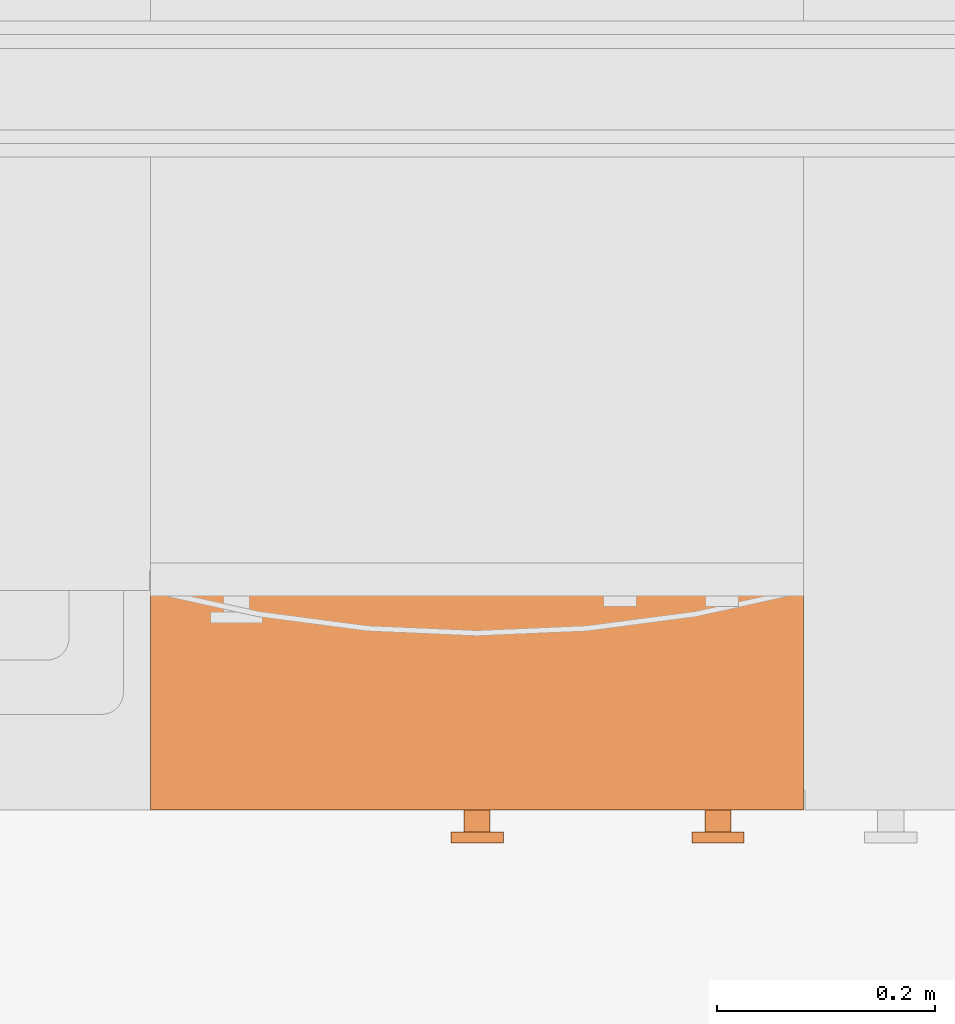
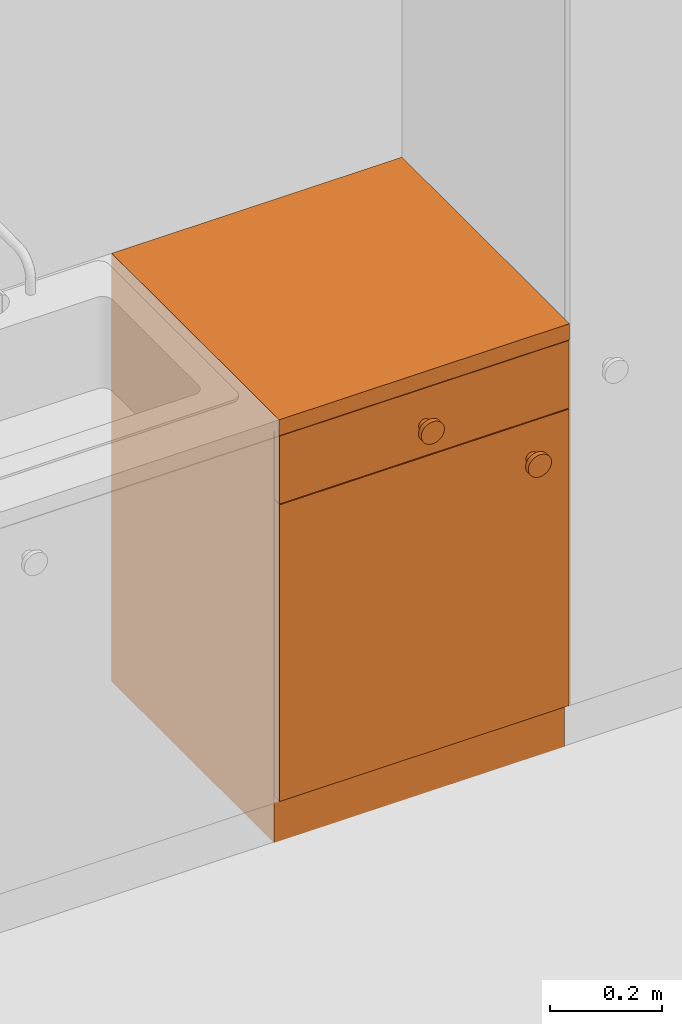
# One storey, part 148 of 165: 1 proxy.
"""IFC2X3 building model written with IfcOpenShell, lengths in millimetres."""

from ifc_helpers import new_model, entity, si_unit, converted_unit, derived_unit, money_unit, direction, frame, origin_with_axes, place, context, subcontext, project, spatial, faceted_brep, type_object, element, save


model = new_model("IFC2X3")

# Units and contexts
model_context = context("Model", 3, precision=0.01, world=origin_with_axes(), true_north=direction((0.0, 1.0)))
body_context = subcontext(model_context, "Body", "Model", "MODEL_VIEW")
ifc_project = project(units=[si_unit("LENGTHUNIT", "METRE", prefix="MILLI"), si_unit("AREAUNIT", "SQUARE_METRE"), si_unit("VOLUMEUNIT", "CUBIC_METRE"), converted_unit("PLANEANGLEUNIT", "DEGREE", entity("IfcPlaneAngleMeasure", 0.0174532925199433), si_unit("PLANEANGLEUNIT", "RADIAN"), dimensions=[0, 0, 0, 0, 0, 0, 0]), money_unit("EUR"), converted_unit("TIMEUNIT", "Year", entity("IfcTimeMeasure", 31556926.0), si_unit("TIMEUNIT", "SECOND"), dimensions=[0, 0, 1, 0, 0, 0, 0]), si_unit("MASSUNIT", "GRAM", prefix="KILO"), si_unit("THERMODYNAMICTEMPERATUREUNIT", "DEGREE_CELSIUS"), si_unit("LUMINOUSINTENSITYUNIT", "LUMEN"), si_unit("ENERGYUNIT", "JOULE", prefix="MEGA"), derived_unit("THERMALCONDUCTANCEUNIT", [(si_unit("POWERUNIT", "WATT"), 1), (si_unit("LENGTHUNIT", "METRE"), -1), (si_unit("THERMODYNAMICTEMPERATUREUNIT", "KELVIN"), -1)]), derived_unit("SPECIFICHEATCAPACITYUNIT", [(si_unit("ENERGYUNIT", "JOULE"), 1), (si_unit("MASSUNIT", "GRAM", prefix="KILO"), -1), (si_unit("THERMODYNAMICTEMPERATUREUNIT", "KELVIN"), -1)]), derived_unit("MASSDENSITYUNIT", [(si_unit("MASSUNIT", "GRAM", prefix="KILO"), 1), (si_unit("VOLUMEUNIT", "CUBIC_METRE"), -1)])], contexts=[model_context])

# Site, building, storey
site_placement = place(None, origin_with_axes())
site = spatial("IfcSite", under=ifc_project, at=site_placement, Name="Site", CompositionType="ELEMENT")
building_placement = place(site_placement, origin_with_axes())
building = spatial("IfcBuilding", under=site, at=building_placement, Name="Naam gebouw", CompositionType="ELEMENT")
storey_placement = place(building_placement, origin_with_axes())
storey = spatial("IfcBuildingStorey", under=building, at=storey_placement, Name="Begane grond", CompositionType="ELEMENT", Elevation=0.0)

# Proxy
building_element_proxy_type = type_object("IfcBuildingElementProxyType", Name="Onderkast recht 26", PredefinedType="NOTDEFINED")
proxy_placement = place(storey_placement, frame((2032.000000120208, 11307.50070589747, 0.0), z_axis=(0.0, 0.0, 1.0), x_axis=(1.0, 0.0, 0.0)))
element("IfcBuildingElementProxy", 1, at=proxy_placement, inside=storey, type_object=building_element_proxy_type, Name="_Leeg", context=body_context, shape_type="Brep", body=[
    faceted_brep([(0.0, -600.0, 900.0), (600.0, -600.0, 900.0), (600.0, -600.0, 935.0), (0.0, -600.0, 935.0), (0.0, 0.0, 900.0), (600.0, 0.0, 900.0), (600.0, 0.0, 935.0), (0.0, 0.0, 935.0)], [[[0, 1, 2, 3]], [[0, 4, 5, 1]], [[1, 5, 6, 2]], [[3, 2, 6, 7]], [[4, 0, 3, 7]], [[5, 4, 7, 6]]]),
    faceted_brep([(18.0, -582.0, 420.5), (582.0, -582.0, 420.5), (582.0, -582.0, 438.5), (18.0, -582.0, 438.5), (18.0, -18.0, 420.5), (582.0, -18.0, 420.5), (582.0, -18.0, 438.5), (18.0, -18.0, 438.5)], [[[0, 1, 2, 3]], [[0, 4, 5, 1]], [[1, 5, 6, 2]], [[3, 2, 6, 7]], [[4, 0, 3, 7]], [[5, 4, 7, 6]]]),
    faceted_brep([(18.0, -582.0, 741.0), (582.0, -582.0, 741.0), (582.0, -582.0, 759.0), (18.0, -582.0, 759.0), (18.0, -18.0, 741.0), (582.0, -18.0, 741.0), (582.0, -18.0, 759.0), (18.0, -18.0, 759.0)], [[[0, 1, 2, 3]], [[0, 4, 5, 1]], [[1, 5, 6, 2]], [[3, 2, 6, 7]], [[4, 0, 3, 7]], [[5, 4, 7, 6]]]),
    faceted_brep([(577.0, -582.0, 764.0), (23.0, -582.0, 764.0), (23.0, -18.00000000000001, 764.0), (577.0, -18.00000000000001, 764.0), (577.0, -582.0, 774.0), (23.0, -582.0, 774.0), (23.0, -18.00000000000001, 774.0), (577.0, -18.00000000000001, 774.0)], [[[0, 1, 2, 3]], [[1, 0, 4, 5]], [[2, 1, 5, 6]], [[3, 2, 6, 7]], [[0, 3, 7, 4]], [[5, 4, 7, 6]]]),
    faceted_brep([(43.0, -582.0, 774.0), (23.0, -582.0, 774.0), (23.0, -18.00000000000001, 774.0), (43.0, -18.00000000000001, 774.0), (43.0, -582.0, 877.0000000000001), (23.0, -582.0, 877.0000000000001), (23.0, -18.00000000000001, 877.0000000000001), (43.0, -18.00000000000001, 877.0000000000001)], [[[0, 1, 2, 3]], [[1, 0, 4, 5]], [[2, 1, 5, 6]], [[3, 2, 6, 7]], [[0, 3, 7, 4]], [[5, 4, 7, 6]]]),
    faceted_brep([(577.0, -582.0, 774.0), (556.9999999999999, -582.0, 774.0), (556.9999999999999, -18.00000000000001, 774.0), (577.0, -18.00000000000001, 774.0), (577.0, -582.0, 877.0000000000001), (556.9999999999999, -582.0, 877.0000000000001), (556.9999999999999, -18.00000000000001, 877.0000000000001), (577.0, -18.00000000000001, 877.0000000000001)], [[[0, 1, 2, 3]], [[1, 0, 4, 5]], [[2, 1, 5, 6]], [[3, 2, 6, 7]], [[0, 3, 7, 4]], [[5, 4, 7, 6]]]),
    faceted_brep([(556.9999999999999, -33.00000000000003, 774.0), (43.0, -33.00000000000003, 774.0), (43.0, -23.00000000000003, 774.0), (556.9999999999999, -23.00000000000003, 774.0), (556.9999999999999, -33.00000000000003, 877.0000000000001), (43.0, -33.00000000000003, 877.0000000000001), (43.0, -23.00000000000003, 877.0000000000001), (556.9999999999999, -23.00000000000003, 877.0000000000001)], [[[0, 1, 2, 3]], [[1, 0, 4, 5]], [[2, 1, 5, 6]], [[3, 2, 6, 7]], [[0, 3, 7, 4]], [[5, 4, 7, 6]]]),
    faceted_brep([(533.1641574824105, -600.0, 668.2626863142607), (532.6227758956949, -600.0, 666.2422227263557), (531.7387692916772, -600.0, 664.3464644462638), (530.5389977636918, -600.0, 662.6330131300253), (529.0599157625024, -600.0, 661.153931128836), (527.346464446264, -600.0, 659.9541596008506), (525.4507061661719, -600.0, 659.0701529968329), (523.4302425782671, -600.0, 658.5287714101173), (521.346464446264, -600.0, 658.3464644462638), (519.2626863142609, -600.0, 658.5287714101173), (517.242222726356, -600.0, 659.0701529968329), (515.346464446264, -600.0, 659.9541596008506), (513.6330131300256, -600.0, 661.153931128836), (512.1539311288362, -600.0, 662.6330131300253), (510.9541596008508, -600.0, 664.3464644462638), (510.0701529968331, -600.0, 666.2422227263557), (509.5287714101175, -600.0, 668.2626863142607), (509.346464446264, -600.0, 670.3464644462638), (509.5287714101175, -600.0, 672.4302425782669), (510.0701529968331, -600.0, 674.4507061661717), (510.9541596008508, -600.0, 676.3464644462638), (512.1539311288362, -600.0, 678.0599157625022), (513.6330131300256, -600.0, 679.5389977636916), (515.346464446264, -600.0, 680.738769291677), (517.242222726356, -600.0, 681.6227758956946), (519.2626863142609, -600.0, 682.1641574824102), (521.346464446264, -600.0, 682.3464644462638), (523.4302425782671, -600.0, 682.1641574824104), (525.4507061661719, -600.0, 681.6227758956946), (527.346464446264, -600.0, 680.738769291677), (529.0599157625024, -600.0, 679.5389977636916), (530.5389977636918, -600.0, 678.0599157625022), (531.7387692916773, -600.0, 676.3464644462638), (532.6227758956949, -600.0, 674.4507061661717), (533.1641574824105, -600.0, 672.4302425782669), (533.346464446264, -600.0, 670.3464644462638), (533.1641574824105, -620.0, 668.2626863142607), (532.6227758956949, -620.0, 666.2422227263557), (531.7387692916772, -620.0, 664.3464644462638), (530.5389977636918, -620.0, 662.6330131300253), (529.0599157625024, -620.0, 661.153931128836), (527.346464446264, -620.0, 659.9541596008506), (525.4507061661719, -620.0, 659.0701529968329), (523.4302425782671, -620.0, 658.5287714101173), (521.346464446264, -620.0, 658.3464644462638), (519.2626863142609, -620.0, 658.5287714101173), (517.242222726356, -620.0, 659.0701529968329), (515.346464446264, -620.0, 659.9541596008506), (513.6330131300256, -620.0, 661.153931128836), (512.1539311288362, -620.0, 662.6330131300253), (510.9541596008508, -620.0, 664.3464644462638), (510.0701529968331, -620.0, 666.2422227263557), (509.5287714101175, -620.0, 668.2626863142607), (509.346464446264, -620.0, 670.3464644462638), (509.5287714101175, -620.0, 672.4302425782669), (510.0701529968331, -620.0, 674.4507061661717), (510.9541596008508, -620.0, 676.3464644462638), (512.1539311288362, -620.0, 678.0599157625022), (513.6330131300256, -620.0, 679.5389977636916), (515.346464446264, -620.0, 680.738769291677), (517.242222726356, -620.0, 681.6227758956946), (519.2626863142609, -620.0, 682.1641574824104), (521.346464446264, -620.0, 682.3464644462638), (523.4302425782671, -620.0, 682.1641574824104), (525.4507061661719, -620.0, 681.6227758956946), (527.346464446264, -620.0, 680.738769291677), (529.0599157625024, -620.0, 679.5389977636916), (530.5389977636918, -620.0, 678.0599157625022), (531.7387692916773, -620.0, 676.3464644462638), (532.6227758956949, -620.0, 674.4507061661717), (533.1641574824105, -620.0, 672.4302425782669), (533.346464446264, -620.0, 670.3464644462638)], [[[0, 1, 2, 3, 4, 5, 6, 7, 8, 9, 10, 11, 12, 13, 14, 15, 16, 17, 18, 19, 20, 21, 22, 23, 24, 25, 26, 27, 28, 29, 30, 31, 32, 33, 34, 35]], [[1, 0, 36, 37]], [[2, 1, 37, 38]], [[3, 2, 38, 39]], [[4, 3, 39, 40]], [[5, 4, 40, 41]], [[6, 5, 41, 42]], [[7, 6, 42, 43]], [[8, 7, 43, 44]], [[9, 8, 44, 45]], [[10, 9, 45, 46]], [[11, 10, 46, 47]], [[12, 11, 47, 48]], [[13, 12, 48, 49]], [[14, 13, 49, 50]], [[15, 14, 50, 51]], [[16, 15, 51, 52]], [[17, 16, 52, 53]], [[18, 17, 53, 54]], [[19, 18, 54, 55]], [[20, 19, 55, 56]], [[21, 20, 56, 57]], [[22, 21, 57, 58]], [[23, 22, 58, 59]], [[24, 23, 59, 60]], [[25, 24, 60, 61]], [[26, 25, 61, 62]], [[27, 26, 62, 63]], [[28, 27, 63, 64]], [[29, 28, 64, 65]], [[30, 29, 65, 66]], [[31, 30, 66, 67]], [[32, 31, 67, 68]], [[33, 32, 68, 69]], [[34, 33, 69, 70]], [[35, 34, 70, 71]], [[0, 35, 71, 36]], [[36, 71, 70, 69, 68, 67, 66, 65, 64, 63, 62, 61, 60, 59, 58, 57, 56, 55, 54, 53, 52, 51, 50, 49, 48, 47, 46, 45, 44, 43, 42, 41, 40, 39, 38, 37]]]),
    faceted_brep([(544.9818505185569, -620.0, 666.1789081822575), (543.8990873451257, -620.0, 662.1379810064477), (542.1310741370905, -620.0, 658.3464644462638), (539.7315310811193, -620.0, 654.9195618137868), (536.7733670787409, -620.0, 651.9613978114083), (533.346464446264, -620.0, 649.5618547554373), (529.5549478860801, -620.0, 647.793841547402), (525.5140207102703, -620.0, 646.7110783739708), (521.346464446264, -620.0, 646.3464644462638), (517.1789081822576, -620.0, 646.7110783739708), (513.137981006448, -620.0, 647.793841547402), (509.346464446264, -620.0, 649.5618547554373), (505.919561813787, -620.0, 651.9613978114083), (502.9613978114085, -620.0, 654.9195618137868), (500.5618547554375, -620.0, 658.3464644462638), (498.7938415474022, -620.0, 662.1379810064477), (497.711078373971, -620.0, 666.1789081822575), (497.346464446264, -620.0, 670.3464644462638), (497.711078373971, -620.0, 674.5140207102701), (498.7938415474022, -620.0, 678.5549478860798), (500.5618547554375, -620.0, 682.3464644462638), (502.9613978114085, -620.0, 685.7733670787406), (505.919561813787, -620.0, 688.7315310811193), (509.346464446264, -620.0, 691.1310741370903), (513.137981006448, -620.0, 692.8990873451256), (517.1789081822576, -620.0, 693.9818505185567), (521.346464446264, -620.0, 694.3464644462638), (525.5140207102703, -620.0, 693.9818505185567), (529.5549478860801, -620.0, 692.8990873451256), (533.346464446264, -620.0, 691.1310741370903), (536.7733670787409, -620.0, 688.7315310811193), (539.7315310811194, -620.0, 685.7733670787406), (542.1310741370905, -620.0, 682.3464644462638), (543.8990873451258, -620.0, 678.5549478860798), (544.9818505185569, -620.0, 674.5140207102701), (545.346464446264, -620.0, 670.3464644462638), (544.9818505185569, -630.0, 666.1789081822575), (543.8990873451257, -630.0, 662.1379810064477), (542.1310741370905, -630.0, 658.3464644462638), (539.7315310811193, -630.0, 654.9195618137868), (536.7733670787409, -630.0, 651.9613978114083), (533.346464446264, -630.0, 649.5618547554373), (529.5549478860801, -630.0, 647.793841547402), (525.5140207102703, -630.0, 646.7110783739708), (521.346464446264, -630.0, 646.3464644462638), (517.1789081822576, -630.0, 646.7110783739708), (513.137981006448, -630.0, 647.793841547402), (509.346464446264, -630.0, 649.5618547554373), (505.919561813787, -630.0, 651.9613978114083), (502.9613978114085, -630.0, 654.9195618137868), (500.5618547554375, -630.0, 658.3464644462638), (498.7938415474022, -630.0, 662.1379810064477), (497.711078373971, -630.0, 666.1789081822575), (497.346464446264, -630.0, 670.3464644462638), (497.711078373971, -630.0, 674.5140207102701), (498.7938415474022, -630.0, 678.5549478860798), (500.5618547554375, -630.0, 682.3464644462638), (502.9613978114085, -630.0, 685.7733670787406), (505.919561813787, -630.0, 688.7315310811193), (509.346464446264, -630.0, 691.1310741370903), (513.137981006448, -630.0, 692.8990873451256), (517.1789081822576, -630.0, 693.9818505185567), (521.346464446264, -630.0, 694.3464644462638), (525.5140207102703, -630.0, 693.9818505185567), (529.5549478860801, -630.0, 692.8990873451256), (533.346464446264, -630.0, 691.1310741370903), (536.7733670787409, -630.0, 688.7315310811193), (539.7315310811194, -630.0, 685.7733670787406), (542.1310741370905, -630.0, 682.3464644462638), (543.8990873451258, -630.0, 678.5549478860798), (544.9818505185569, -630.0, 674.5140207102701), (545.346464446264, -630.0, 670.3464644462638)], [[[0, 1, 2, 3, 4, 5, 6, 7, 8, 9, 10, 11, 12, 13, 14, 15, 16, 17, 18, 19, 20, 21, 22, 23, 24, 25, 26, 27, 28, 29, 30, 31, 32, 33, 34, 35]], [[1, 0, 36, 37]], [[2, 1, 37, 38]], [[3, 2, 38, 39]], [[4, 3, 39, 40]], [[5, 4, 40, 41]], [[6, 5, 41, 42]], [[7, 6, 42, 43]], [[8, 7, 43, 44]], [[9, 8, 44, 45]], [[10, 9, 45, 46]], [[11, 10, 46, 47]], [[12, 11, 47, 48]], [[13, 12, 48, 49]], [[14, 13, 49, 50]], [[15, 14, 50, 51]], [[16, 15, 51, 52]], [[17, 16, 52, 53]], [[18, 17, 53, 54]], [[19, 18, 54, 55]], [[20, 19, 55, 56]], [[21, 20, 56, 57]], [[22, 21, 57, 58]], [[23, 22, 58, 59]], [[24, 23, 59, 60]], [[25, 24, 60, 61]], [[26, 25, 61, 62]], [[27, 26, 62, 63]], [[28, 27, 63, 64]], [[29, 28, 64, 65]], [[30, 29, 65, 66]], [[31, 30, 66, 67]], [[32, 31, 67, 68]], [[33, 32, 68, 69]], [[34, 33, 69, 70]], [[35, 34, 70, 71]], [[0, 35, 71, 36]], [[36, 71, 70, 69, 68, 67, 66, 65, 64, 63, 62, 61, 60, 59, 58, 57, 56, 55, 54, 53, 52, 51, 50, 49, 48, 47, 46, 45, 44, 43, 42, 41, 40, 39, 38, 37]]]),
    faceted_brep([(1.0, -582.0, 101.0), (599.0, -582.0, 101.0), (599.0, -600.0, 101.0), (1.0, -600.0, 101.0), (1.0, -582.0, 749.0), (599.0, -582.0, 749.0), (599.0, -599.9999999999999, 749.0), (1.0, -599.9999999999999, 749.0)], [[[0, 1, 2, 3]], [[0, 4, 5, 1]], [[1, 5, 6, 2]], [[3, 2, 6, 7]], [[4, 0, 3, 7]], [[5, 4, 7, 6]]]),
    faceted_brep([(311.8176930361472, -600.0, 817.916221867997), (311.2763114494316, -600.0, 815.8957582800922), (310.3923048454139, -600.0, 814.0000000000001), (309.1925333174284, -600.0, 812.2865486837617), (307.7134513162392, -600.0, 810.8074666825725), (306.0000000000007, -600.0, 809.607695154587), (304.1042417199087, -600.0, 808.7236885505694), (302.0837781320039, -600.0, 808.1823069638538), (300.0000000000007, -600.0, 808.0000000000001), (297.9162218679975, -600.0, 808.1823069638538), (295.8957582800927, -600.0, 808.7236885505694), (294.0000000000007, -600.0, 809.607695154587), (292.2865486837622, -600.0, 810.8074666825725), (290.807466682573, -600.0, 812.2865486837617), (289.6076951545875, -600.0, 814.0000000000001), (288.7236885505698, -600.0, 815.8957582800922), (288.1823069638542, -600.0, 817.916221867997), (288.0000000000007, -600.0, 820.0000000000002), (288.1823069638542, -600.0, 822.0837781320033), (288.7236885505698, -600.0, 824.1042417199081), (289.6076951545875, -600.0, 826.0000000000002), (290.807466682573, -600.0, 827.7134513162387), (292.2865486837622, -600.0, 829.1925333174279), (294.0000000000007, -600.0, 830.3923048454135), (295.8957582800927, -600.0, 831.2763114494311), (297.9162218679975, -600.0, 831.8176930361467), (300.0000000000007, -600.0, 832.0000000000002), (302.0837781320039, -600.0, 831.8176930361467), (304.1042417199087, -600.0, 831.2763114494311), (306.0000000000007, -600.0, 830.3923048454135), (307.7134513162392, -600.0, 829.1925333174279), (309.1925333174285, -600.0, 827.7134513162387), (310.3923048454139, -600.0, 826.0000000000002), (311.2763114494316, -600.0, 824.1042417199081), (311.8176930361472, -600.0, 822.0837781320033), (312.0000000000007, -600.0, 820.0000000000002), (311.8176930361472, -620.0, 817.916221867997), (311.2763114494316, -620.0, 815.8957582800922), (310.3923048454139, -620.0, 814.0000000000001), (309.1925333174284, -620.0, 812.2865486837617), (307.7134513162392, -620.0, 810.8074666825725), (306.0000000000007, -620.0, 809.607695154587), (304.1042417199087, -620.0, 808.7236885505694), (302.0837781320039, -620.0, 808.1823069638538), (300.0000000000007, -620.0, 808.0000000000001), (297.9162218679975, -620.0, 808.1823069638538), (295.8957582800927, -620.0, 808.7236885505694), (294.0000000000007, -620.0, 809.607695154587), (292.2865486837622, -620.0, 810.8074666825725), (290.807466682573, -620.0, 812.2865486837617), (289.6076951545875, -620.0, 814.0000000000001), (288.7236885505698, -620.0, 815.8957582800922), (288.1823069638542, -620.0, 817.916221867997), (288.0000000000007, -620.0, 820.0000000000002), (288.1823069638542, -620.0, 822.0837781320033), (288.7236885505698, -620.0, 824.1042417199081), (289.6076951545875, -620.0, 826.0000000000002), (290.807466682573, -620.0, 827.7134513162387), (292.2865486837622, -620.0, 829.1925333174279), (294.0000000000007, -620.0, 830.3923048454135), (295.8957582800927, -620.0, 831.2763114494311), (297.9162218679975, -620.0, 831.8176930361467), (300.0000000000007, -620.0, 832.0000000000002), (302.0837781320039, -620.0, 831.8176930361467), (304.1042417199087, -620.0, 831.2763114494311), (306.0000000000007, -620.0, 830.3923048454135), (307.7134513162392, -620.0, 829.1925333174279), (309.1925333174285, -620.0, 827.7134513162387), (310.3923048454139, -620.0, 826.0000000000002), (311.2763114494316, -620.0, 824.1042417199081), (311.8176930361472, -620.0, 822.0837781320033), (312.0000000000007, -620.0, 820.0000000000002)], [[[0, 1, 2, 3, 4, 5, 6, 7, 8, 9, 10, 11, 12, 13, 14, 15, 16, 17, 18, 19, 20, 21, 22, 23, 24, 25, 26, 27, 28, 29, 30, 31, 32, 33, 34, 35]], [[1, 0, 36, 37]], [[2, 1, 37, 38]], [[3, 2, 38, 39]], [[4, 3, 39, 40]], [[5, 4, 40, 41]], [[6, 5, 41, 42]], [[7, 6, 42, 43]], [[8, 7, 43, 44]], [[9, 8, 44, 45]], [[10, 9, 45, 46]], [[11, 10, 46, 47]], [[12, 11, 47, 48]], [[13, 12, 48, 49]], [[14, 13, 49, 50]], [[15, 14, 50, 51]], [[16, 15, 51, 52]], [[17, 16, 52, 53]], [[18, 17, 53, 54]], [[19, 18, 54, 55]], [[20, 19, 55, 56]], [[21, 20, 56, 57]], [[22, 21, 57, 58]], [[23, 22, 58, 59]], [[24, 23, 59, 60]], [[25, 24, 60, 61]], [[26, 25, 61, 62]], [[27, 26, 62, 63]], [[28, 27, 63, 64]], [[29, 28, 64, 65]], [[30, 29, 65, 66]], [[31, 30, 66, 67]], [[32, 31, 67, 68]], [[33, 32, 68, 69]], [[34, 33, 69, 70]], [[35, 34, 70, 71]], [[0, 35, 71, 36]], [[36, 71, 70, 69, 68, 67, 66, 65, 64, 63, 62, 61, 60, 59, 58, 57, 56, 55, 54, 53, 52, 51, 50, 49, 48, 47, 46, 45, 44, 43, 42, 41, 40, 39, 38, 37]]]),
    faceted_brep([(323.6353860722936, -620.0, 815.8324437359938), (322.5526228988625, -620.0, 811.7915165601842), (320.7846096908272, -620.0, 808.0000000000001), (318.3850666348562, -620.0, 804.5730973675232), (315.4269026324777, -620.0, 801.6149333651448), (312.0000000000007, -620.0, 799.2153903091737), (308.2084834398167, -620.0, 797.4473771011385), (304.167556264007, -620.0, 796.3646139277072), (300.0000000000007, -620.0, 796.0000000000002), (295.8324437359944, -620.0, 796.3646139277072), (291.7915165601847, -620.0, 797.4473771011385), (288.0000000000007, -620.0, 799.2153903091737), (284.5730973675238, -620.0, 801.6149333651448), (281.6149333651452, -620.0, 804.5730973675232), (279.2153903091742, -620.0, 808.0000000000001), (277.4473771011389, -620.0, 811.7915165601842), (276.3646139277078, -620.0, 815.8324437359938), (276.0000000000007, -620.0, 820.0000000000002), (276.3646139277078, -620.0, 824.1675562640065), (277.4473771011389, -620.0, 828.2084834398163), (279.2153903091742, -620.0, 832.0000000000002), (281.6149333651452, -620.0, 835.4269026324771), (284.5730973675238, -620.0, 838.3850666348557), (288.0000000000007, -620.0, 840.7846096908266), (291.7915165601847, -620.0, 842.5526228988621), (295.8324437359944, -620.0, 843.6353860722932), (300.0000000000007, -620.0, 844.0000000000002), (304.167556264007, -620.0, 843.6353860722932), (308.2084834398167, -620.0, 842.5526228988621), (312.0000000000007, -620.0, 840.7846096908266), (315.4269026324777, -620.0, 838.3850666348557), (318.3850666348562, -620.0, 835.4269026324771), (320.7846096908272, -620.0, 832.0000000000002), (322.5526228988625, -620.0, 828.2084834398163), (323.6353860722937, -620.0, 824.1675562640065), (324.0000000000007, -620.0, 820.0000000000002), (323.6353860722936, -630.0, 815.8324437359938), (322.5526228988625, -630.0, 811.7915165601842), (320.7846096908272, -630.0, 808.0000000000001), (318.3850666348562, -630.0, 804.5730973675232), (315.4269026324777, -630.0, 801.6149333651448), (312.0000000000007, -630.0, 799.2153903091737), (308.2084834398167, -630.0, 797.4473771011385), (304.167556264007, -630.0, 796.3646139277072), (300.0000000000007, -630.0, 796.0000000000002), (295.8324437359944, -630.0, 796.3646139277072), (291.7915165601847, -630.0, 797.4473771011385), (288.0000000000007, -630.0, 799.2153903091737), (284.5730973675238, -630.0, 801.6149333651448), (281.6149333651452, -630.0, 804.5730973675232), (279.2153903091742, -630.0, 808.0000000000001), (277.4473771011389, -630.0, 811.7915165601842), (276.3646139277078, -630.0, 815.8324437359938), (276.0000000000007, -630.0, 820.0000000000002), (276.3646139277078, -630.0, 824.1675562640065), (277.4473771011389, -630.0, 828.2084834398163), (279.2153903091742, -630.0, 832.0000000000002), (281.6149333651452, -630.0, 835.4269026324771), (284.5730973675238, -630.0, 838.3850666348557), (288.0000000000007, -630.0, 840.7846096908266), (291.7915165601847, -630.0, 842.5526228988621), (295.8324437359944, -630.0, 843.6353860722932), (300.0000000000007, -630.0, 844.0000000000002), (304.167556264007, -630.0, 843.6353860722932), (308.2084834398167, -630.0, 842.5526228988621), (312.0000000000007, -630.0, 840.7846096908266), (315.4269026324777, -630.0, 838.3850666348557), (318.3850666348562, -630.0, 835.4269026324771), (320.7846096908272, -630.0, 832.0000000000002), (322.5526228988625, -630.0, 828.2084834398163), (323.6353860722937, -630.0, 824.1675562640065), (324.0000000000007, -630.0, 820.0000000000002)], [[[0, 1, 2, 3, 4, 5, 6, 7, 8, 9, 10, 11, 12, 13, 14, 15, 16, 17, 18, 19, 20, 21, 22, 23, 24, 25, 26, 27, 28, 29, 30, 31, 32, 33, 34, 35]], [[1, 0, 36, 37]], [[2, 1, 37, 38]], [[3, 2, 38, 39]], [[4, 3, 39, 40]], [[5, 4, 40, 41]], [[6, 5, 41, 42]], [[7, 6, 42, 43]], [[8, 7, 43, 44]], [[9, 8, 44, 45]], [[10, 9, 45, 46]], [[11, 10, 46, 47]], [[12, 11, 47, 48]], [[13, 12, 48, 49]], [[14, 13, 49, 50]], [[15, 14, 50, 51]], [[16, 15, 51, 52]], [[17, 16, 52, 53]], [[18, 17, 53, 54]], [[19, 18, 54, 55]], [[20, 19, 55, 56]], [[21, 20, 56, 57]], [[22, 21, 57, 58]], [[23, 22, 58, 59]], [[24, 23, 59, 60]], [[25, 24, 60, 61]], [[26, 25, 61, 62]], [[27, 26, 62, 63]], [[28, 27, 63, 64]], [[29, 28, 64, 65]], [[30, 29, 65, 66]], [[31, 30, 66, 67]], [[32, 31, 67, 68]], [[33, 32, 68, 69]], [[34, 33, 69, 70]], [[35, 34, 70, 71]], [[0, 35, 71, 36]], [[36, 71, 70, 69, 68, 67, 66, 65, 64, 63, 62, 61, 60, 59, 58, 57, 56, 55, 54, 53, 52, 51, 50, 49, 48, 47, 46, 45, 44, 43, 42, 41, 40, 39, 38, 37]]]),
    faceted_brep([(1.0, -582.0, 751.0), (599.0, -582.0, 751.0), (599.0, -600.0, 751.0), (1.0, -600.0, 751.0), (1.0, -582.0, 899.0), (599.0, -582.0, 899.0), (599.0, -600.0, 899.0), (1.0, -600.0, 899.0)], [[[0, 1, 2, 3]], [[0, 4, 5, 1]], [[1, 5, 6, 2]], [[3, 2, 6, 7]], [[4, 0, 3, 7]], [[5, 4, 7, 6]]]),
    faceted_brep([(18.0, -582.0, 100.0), (582.0, -582.0, 100.0), (582.0, -582.0, 118.0), (18.0, -582.0, 118.0), (18.0, 0.0, 100.0), (582.0, 0.0, 100.0), (582.0, 0.0, 118.0), (18.0, 0.0, 118.0)], [[[0, 1, 2, 3]], [[0, 4, 5, 1]], [[1, 5, 6, 2]], [[3, 2, 6, 7]], [[4, 0, 3, 7]], [[5, 4, 7, 6]]]),
    faceted_brep([(18.0, -582.0, 882.0), (18.0, -522.0, 882.0), (582.0, -522.0, 882.0), (582.0, -582.0, 882.0), (18.0, -582.0, 900.0), (18.0, -522.0, 900.0), (582.0, -522.0, 900.0), (582.0, -582.0, 900.0)], [[[0, 1, 2, 3]], [[0, 4, 5, 1]], [[1, 5, 6, 2]], [[3, 2, 6, 7]], [[4, 0, 3, 7]], [[5, 4, 7, 6]]]),
    faceted_brep([(582.0, 0.0, 882.0), (582.0, -60.0, 882.0), (18.0, -60.0, 882.0), (18.0, 0.0, 882.0), (582.0, 0.0, 900.0), (582.0, -60.0, 900.0), (18.0, -60.0, 900.0), (18.0, 0.0, 900.0)], [[[0, 1, 2, 3]], [[0, 4, 5, 1]], [[1, 5, 6, 2]], [[3, 2, 6, 7]], [[4, 0, 3, 7]], [[5, 4, 7, 6]]]),
    faceted_brep([(0.0, 0.0, 100.0), (0.0, -582.0, 100.0), (0.0, -582.0, 900.0), (0.0, 0.0, 900.0), (18.0, 0.0, 100.0), (18.0, -582.0, 100.0), (18.0, -582.0, 900.0), (18.0, 0.0, 900.0)], [[[0, 1, 2, 3]], [[0, 4, 5, 1]], [[1, 5, 6, 2]], [[3, 2, 6, 7]], [[4, 0, 3, 7]], [[5, 4, 7, 6]]]),
    faceted_brep([(600.0, -582.0, 100.0), (600.0, 0.0, 100.0), (600.0, 0.0, 900.0), (600.0, -582.0, 900.0), (582.0, -582.0, 100.0), (582.0, 0.0, 100.0), (582.0, 0.0, 900.0), (582.0, -582.0, 900.0)], [[[0, 1, 2, 3]], [[0, 4, 5, 1]], [[1, 5, 6, 2]], [[3, 2, 6, 7]], [[4, 0, 3, 7]], [[5, 4, 7, 6]]]),
    faceted_brep([(582.0, -9.0, 118.0), (18.00000000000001, -9.0, 118.0), (18.00000000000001, -9.0, 882.0), (582.0, -9.0, 882.0), (582.0, -18.0, 118.0), (18.00000000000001, -18.0, 118.0), (18.00000000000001, -18.0, 882.0), (582.0, -18.0, 882.0)], [[[0, 1, 2, 3]], [[0, 4, 5, 1]], [[1, 5, 6, 2]], [[3, 2, 6, 7]], [[4, 0, 3, 7]], [[5, 4, 7, 6]]]),
    faceted_brep([(0.0, -582.0, 0.0), (600.0, -582.0, 0.0), (600.0, -582.0, 100.0), (0.0, -582.0, 100.0), (0.0, 0.0, 0.0), (600.0, 0.0, 0.0), (600.0, 0.0, 100.0), (0.0, 0.0, 100.0)], [[[0, 1, 2, 3]], [[0, 4, 5, 1]], [[1, 5, 6, 2]], [[3, 2, 6, 7]], [[4, 0, 3, 7]], [[5, 4, 7, 6]]]),
])

save(model, "model.ifc")
